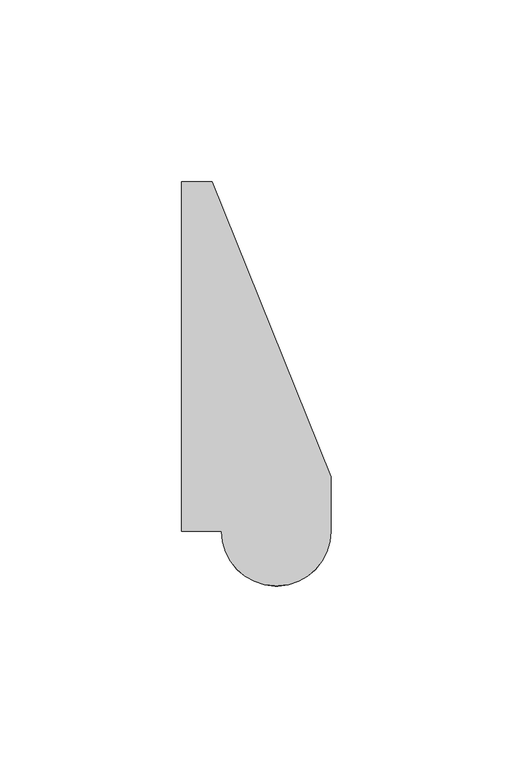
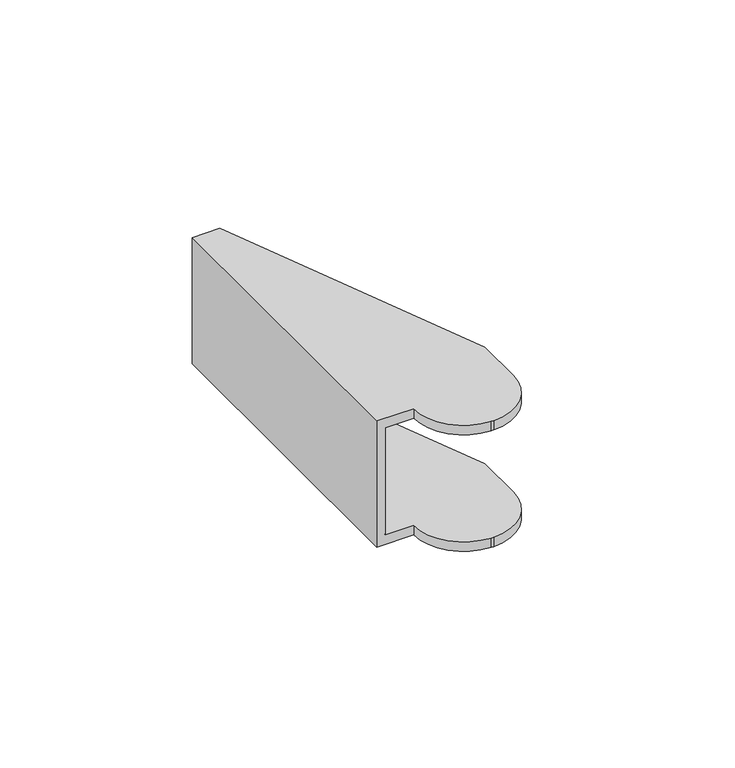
"""IFC4 building model written with IfcOpenShell, lengths in millimetres: proxy geometry, 4182H-2_Accessory-Basorfix : Basorfix 4182H-2 I304."""

from ifc_helpers import new_model, si_unit, frame, origin, place, context, project, spatial, circle_curve, source, transform, mapped, element, save
from ifc_brep_helpers import plane_surface, cylinder_surface, advanced_brep


def generic_models_06d51203(model_context):
    return source(origin(), model_context, "Body", "AdvancedBrep", [
        advanced_brep(
        [(26.4064114, -15.0, 40.0), (25.5822706, -15.0, 40.0), (25.5822706, -15.0, 37.0), (26.4064114, -15.0, 37.0), (25.5822706, -15.0, 0.0), (26.4064114, -15.0, 0.0), (26.4064114, -15.0, 3.0), (25.5822706, -15.0, 3.0), (2.5, 96.0, 37.0), (2.5, 96.0, 3.0), (8.2738757, 96.0, 3.0), (8.2738757, 96.0, 0.0), (0.0, 96.0, 0.0), (0.0, 96.0, 40.0), (8.2738757, 96.0, 40.0), (8.2738757, 96.0, 37.0), (41.0, 0.0, 40.0), (41.0, 15.0, 40.0), (0.0, 0.0, 40.0), (10.988682, 0.0, 40.0), (0.0, 0.0, 0.0), (10.988682, 0.0, 0.0), (41.0, 15.0, 0.0), (41.0, 0.0, 0.0), (41.0, 15.0, 3.0), (41.0, 0.0, 3.0), (2.5, 0.0, 3.0), (10.988682, 0.0, 3.0), (2.5, 0.0, 37.0), (10.988682, 0.0, 37.0), (41.0, 15.0, 37.0), (41.0, 0.0, 37.0)],
        [
            (0, 1),
            (1, 2),
            (2, 3),
            (3, 0),
            (4, 5),
            (5, 6),
            (6, 7),
            (7, 4),
            (8, 9),
            (9, 10),
            (10, 11),
            (11, 12),
            (12, 13),
            (13, 14),
            (14, 15),
            (15, 8),
            (0, 16, circle_curve(frame((25.994341, 0.0, 40.0), z_axis=(0.0, 0.0, 1.0), x_axis=(1.0, 0.0, 0.0)), 15.005659)),
            (16, 17),
            (17, 14),
            (13, 18),
            (18, 19),
            (19, 1, circle_curve(frame((25.994341, 0.0, 40.0), z_axis=(0.0, 0.0, 1.0), x_axis=(1.0, 0.0, 0.0)), 15.005659)),
            (12, 20),
            (20, 18),
            (4, 21, circle_curve(frame((25.994341, 0.0, 0.0), z_axis=(0.0, 0.0, -1.0), x_axis=(1.0, 0.0, 0.0)), 15.005659)),
            (21, 20),
            (11, 22),
            (22, 23),
            (23, 5, circle_curve(frame((25.994341, 0.0, 0.0), z_axis=(0.0, 0.0, -1.0), x_axis=(1.0, 0.0, 0.0)), 15.005659)),
            (22, 24),
            (24, 25),
            (25, 23),
            (6, 25, circle_curve(frame((25.994341, 0.0, 3.0), z_axis=(0.0, 0.0, 1.0), x_axis=(1.0, 0.0, 0.0)), 15.005659)),
            (24, 10),
            (9, 26),
            (26, 27),
            (27, 7, circle_curve(frame((25.994341, 0.0, 3.0), z_axis=(0.0, 0.0, 1.0), x_axis=(1.0, 0.0, 0.0)), 15.005659)),
            (8, 28),
            (28, 26),
            (2, 29, circle_curve(frame((25.994341, 0.0, 37.0), z_axis=(0.0, 0.0, -1.0), x_axis=(1.0, 0.0, 0.0)), 15.005659)),
            (29, 28),
            (15, 30),
            (30, 31),
            (31, 3, circle_curve(frame((25.994341, 0.0, 37.0), z_axis=(0.0, 0.0, -1.0), x_axis=(1.0, 0.0, 0.0)), 15.005659)),
            (16, 31),
            (30, 17),
            (21, 27),
            (29, 19),
        ],
        [
            plane_surface(frame((41.0, -15.0, 40.0), z_axis=(0.0, -1.0, 0.0), x_axis=(-1.0, 0.0, 0.0))),
            plane_surface(frame((41.0, 96.0, 40.0), z_axis=(0.0, 1.0, 0.0), x_axis=(1.0, 0.0, 0.0))),
            plane_surface(frame((41.0, -15.0, 40.0), z_axis=(0.0, 0.0, 1.0), x_axis=(0.0, 1.0, 0.0))),
            plane_surface(frame((0.0, -15.0, 40.0), z_axis=(-1.0, 0.0, 0.0), x_axis=(0.0, 1.0, 0.0))),
            plane_surface(frame((0.0, -15.0, 0.0), z_axis=(0.0, 0.0, -1.0), x_axis=(0.0, 1.0, 0.0))),
            plane_surface(frame((41.0, -15.0, 0.0), z_axis=(1.0, 0.0, 0.0), x_axis=(0.0, 1.0, 0.0))),
            plane_surface(frame((41.0, -15.0, 3.0), z_axis=(0.0, 0.0, 1.0), x_axis=(0.0, 1.0, 0.0))),
            plane_surface(frame((2.5, -15.0, 3.0), z_axis=(1.0, 0.0, 0.0), x_axis=(0.0, 1.0, 0.0))),
            plane_surface(frame((2.5, -15.0, 37.0), z_axis=(0.0, 0.0, -1.0), x_axis=(0.0, 1.0, 0.0))),
            plane_surface(frame((41.0, -15.0, 37.0), z_axis=(1.0, 0.0, 0.0), x_axis=(0.0, 1.0, 0.0))),
            plane_surface(frame((10.988682, 0.0, 51.0), z_axis=(0.0, -1.0, 0.0), x_axis=(0.0, 0.0, -1.0))),
            cylinder_surface(frame((25.994341, 0.0, 0.0), z_axis=(0.0, 0.0, -1.0), x_axis=(1.0, 0.0, 0.0)), 15.005659),
            plane_surface(frame((8.2738757, 96.0, 51.0), z_axis=(0.9271838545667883, 0.37460659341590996, 0.0), x_axis=(0.0, 0.0, -1.0))),
        ],
        [
            (0, [[1, 2, 3, 4]]),
            (0, [[5, 6, 7, 8]]),
            (1, [[9, 10, 11, 12, 13, 14, 15, 16]]),
            (2, [[-1, 17, 18, 19, -14, 20, 21, 22]]),
            (3, [[-13, 23, 24, -20]]),
            (4, [[-5, 25, 26, -23, -12, 27, 28, 29]]),
            (5, [[-28, 30, 31, 32]]),
            (6, [[-7, 33, -31, 34, -10, 35, 36, 37]]),
            (7, [[-9, 38, 39, -35]]),
            (8, [[-3, 40, 41, -38, -16, 42, 43, 44]]),
            (9, [[-18, 45, -43, 46]]),
            (10, [[47, -36, -39, -41, 48, -21, -24, -26]]),
            (11, [[-4, -44, -45, -17]]),
            (11, [[-6, -29, -32, -33]]),
            (11, [[-47, -25, -8, -37]]),
            (11, [[-48, -40, -2, -22]]),
            (12, [[-11, -34, -30, -27]]),
            (12, [[-15, -19, -46, -42]]),
        ],
    ),
    ])


if __name__ == "__main__":
    model = new_model("IFC4")
    model_context = context("Model", 3, world=origin())
    ifc_project = project(units=[si_unit("LENGTHUNIT", "METRE", prefix="MILLI")], contexts=[model_context])
    site = spatial("IfcSite", under=ifc_project)
    building = spatial("IfcBuilding", under=site)
    placement = place(None, origin())
    generic_models_shape = generic_models_06d51203(model_context)
    element("IfcBuildingElementProxy", 1, Name="4182H-2_Accessory-Basorfix : Basorfix 4182H-2 I304", ObjectType="4182H-2_Accessory-Basorfix : Basorfix 4182H-2 I304", at=placement, inside=building, context=model_context, shape_type="MappedRepresentation", body=[
        mapped(generic_models_shape, transform((0.0, 0.0, 0.0), x_axis=(1.0, 0.0, 0.0), y_axis=(0.0, 1.0, 0.0), z_axis=(0.0, 0.0, 1.0))),
    ])
    save(model, "model.ifc")
